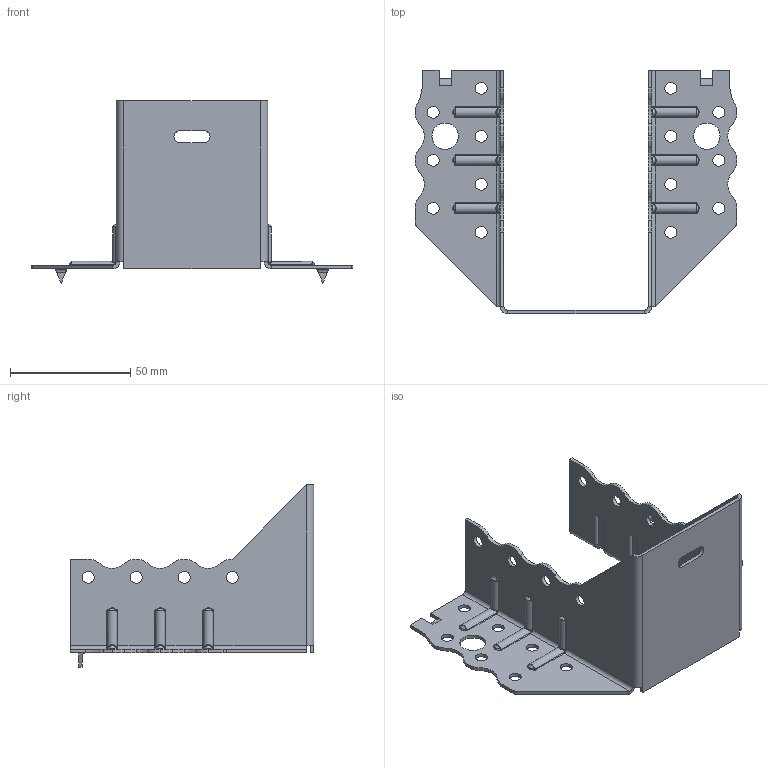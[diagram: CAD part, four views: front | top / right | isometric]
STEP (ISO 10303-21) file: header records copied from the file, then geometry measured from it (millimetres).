
FILE_DESCRIPTION (( 'STEP AP203' ), '1' );
FILE_NAME ('30502TOP.STEP', '2021-04-07T11:20:37', ( '' ), ( '' ), 'SwSTEP 2.0', 'SolidWorks 2013', '' );
FILE_SCHEMA (( 'CONFIG_CONTROL_DESIGN' ));
Length unit declared in the file: millimetre
Products named in the file (1): 30502TOP
Bounding box: 134 x 101.5 x 76 mm (x, y, z)
Volume: 26555.8 mm3; surface area: 37556.3 mm2
Topology: 1 solids, 1 shells, 379 faces, 931 edges, 554 vertices
Faces by surface type: cylinder 190, bspline 90, plane 75, torus 12, sphere 12
Entity records: 16984 total; most frequent: CARTESIAN_POINT 8423, ORIENTED_EDGE 1862, DIRECTION 1675, EDGE_CURVE 931, AXIS2_PLACEMENT_3D 642, VERTEX_POINT 554, EDGE_LOOP 429, VECTOR 391
